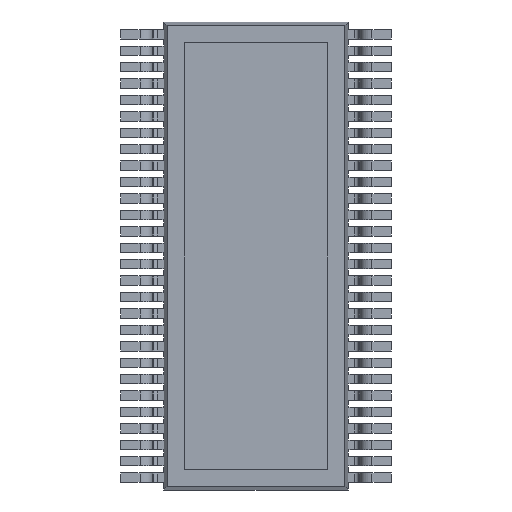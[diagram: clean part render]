
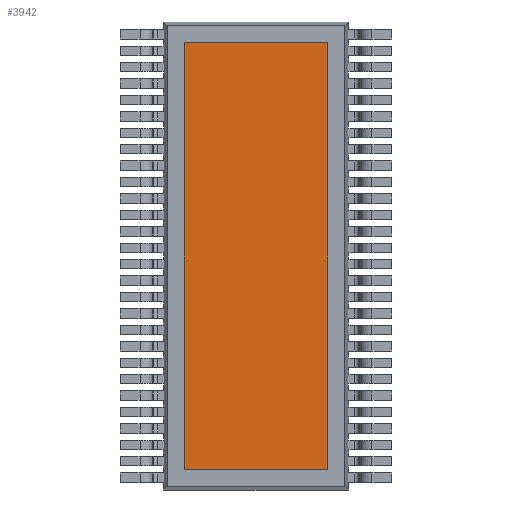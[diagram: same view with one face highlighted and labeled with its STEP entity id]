
A CAD part, front view. The second image highlights one B-rep face of the part: STEP entity #3942.
In plain terms, the highlighted planar face has unit normal (0, -1, 0).
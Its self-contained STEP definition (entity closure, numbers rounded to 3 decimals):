
#3942 = ADVANCED_FACE ( 'NONE', ( #12148 ), #24057, .F. ) ;
#12148 = FACE_OUTER_BOUND ( 'NONE', #35144, .T. ) ;
#15621 = CARTESIAN_POINT ( 'NONE',  ( 1.75, 0., -5.2 ) ) ;
#15623 = CARTESIAN_POINT ( 'NONE',  ( 1.75, 0., 5.2 ) ) ;
#15627 = CARTESIAN_POINT ( 'NONE',  ( -1.75, 0., -5.2 ) ) ;
#15629 = CARTESIAN_POINT ( 'NONE',  ( -1.75, 0., 5.2 ) ) ;
#16675 = CARTESIAN_POINT ( 'NONE',  ( 1.75, 0., 5.2 ) ) ;
#16686 = DIRECTION ( 'NONE',  ( 0., 0., 1. ) ) ;
#16693 = DIRECTION ( 'NONE',  ( -1., 0., 0. ) ) ;
#16699 = CARTESIAN_POINT ( 'NONE',  ( -1.75, 0., 5.2 ) ) ;
#16705 = CARTESIAN_POINT ( 'NONE',  ( -1.75, 0., -5.2 ) ) ;
#16707 = CARTESIAN_POINT ( 'NONE',  ( -1.75, 0., 5.2 ) ) ;
#16713 = DIRECTION ( 'NONE',  ( 0., 0., -1. ) ) ;
#16719 = DIRECTION ( 'NONE',  ( 1., 0., 0. ) ) ;
#17767 = VERTEX_POINT ( 'NONE', #15621 ) ;
#17769 = VERTEX_POINT ( 'NONE', #15623 ) ;
#17775 = VERTEX_POINT ( 'NONE', #15627 ) ;
#17778 = VERTEX_POINT ( 'NONE', #15629 ) ;
#24057 = PLANE ( 'NONE',  #30491 ) ;
#24088 = CARTESIAN_POINT ( 'NONE',  ( 0., 0., 0. ) ) ;
#24090 = DIRECTION ( 'NONE',  ( 0., 1., 0. ) ) ;
#24092 = DIRECTION ( 'NONE',  ( 0., 0., 1. ) ) ;
#25526 = LINE ( 'NONE', #16675, #25546 ) ;
#25546 = VECTOR ( 'NONE', #16686, 1000. ) ;
#25566 = LINE ( 'NONE', #16699, #25582 ) ;
#25574 = LINE ( 'NONE', #16707, #25937 ) ;
#25582 = VECTOR ( 'NONE', #16693, 1000. ) ;
#25590 = LINE ( 'NONE', #16705, #25921 ) ;
#25921 = VECTOR ( 'NONE', #16719, 1000. ) ;
#25937 = VECTOR ( 'NONE', #16713, 1000. ) ;
#29783 = EDGE_CURVE ( 'NONE', #17767, #17769, #25526, .T. ) ;
#29788 = EDGE_CURVE ( 'NONE', #17769, #17778, #25566, .T. ) ;
#29791 = EDGE_CURVE ( 'NONE', #17778, #17775, #25574, .T. ) ;
#29793 = EDGE_CURVE ( 'NONE', #17775, #17767, #25590, .T. ) ;
#30491 = AXIS2_PLACEMENT_3D ( 'NONE', #24088, #24090, #24092 ) ;
#33822 = ORIENTED_EDGE ( 'NONE', *, *, #29793, .T. ) ;
#33826 = ORIENTED_EDGE ( 'NONE', *, *, #29791, .T. ) ;
#33947 = ORIENTED_EDGE ( 'NONE', *, *, #29788, .T. ) ;
#33950 = ORIENTED_EDGE ( 'NONE', *, *, #29783, .T. ) ;
#35144 = EDGE_LOOP ( 'NONE', ( #33950, #33947, #33826, #33822 ) ) ;
